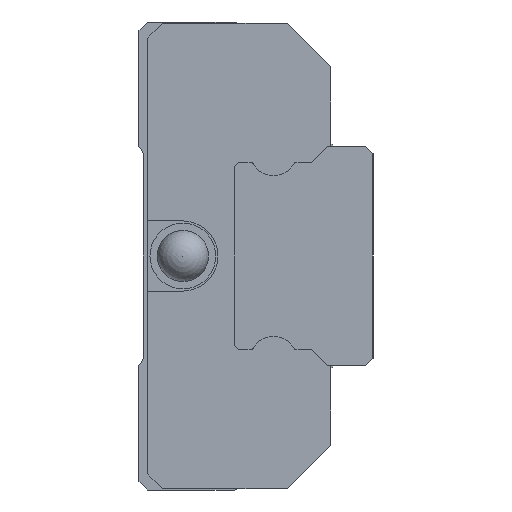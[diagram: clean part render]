
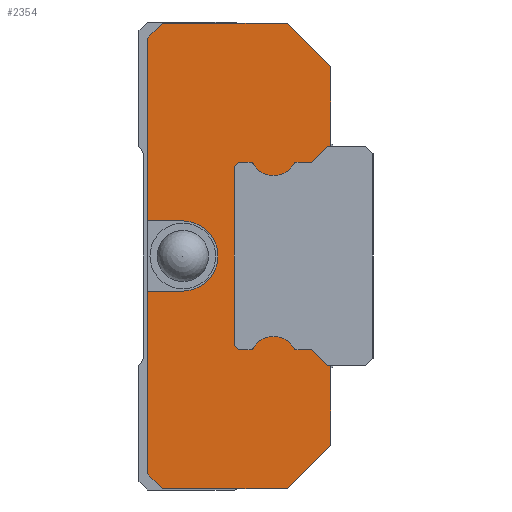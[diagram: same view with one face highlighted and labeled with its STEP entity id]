
A CAD part, left-side view. The second image highlights one B-rep face of the part: STEP entity #2354.
In plain terms, the highlighted planar face has unit normal (-1, 0, 0).
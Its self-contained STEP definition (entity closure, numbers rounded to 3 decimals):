
#90=CIRCLE('',#2548,2.4);
#91=CIRCLE('',#2549,0.15);
#92=CIRCLE('',#2550,1.6);
#93=CIRCLE('',#2551,0.15);
#94=CIRCLE('',#2552,0.15);
#95=CIRCLE('',#2553,1.6);
#96=CIRCLE('',#2554,0.15);
#270=ORIENTED_EDGE('',*,*,#866,.T.);
#271=ORIENTED_EDGE('',*,*,#867,.T.);
#272=ORIENTED_EDGE('',*,*,#868,.T.);
#273=ORIENTED_EDGE('',*,*,#864,.F.);
#274=ORIENTED_EDGE('',*,*,#869,.F.);
#275=ORIENTED_EDGE('',*,*,#870,.F.);
#276=ORIENTED_EDGE('',*,*,#871,.F.);
#277=ORIENTED_EDGE('',*,*,#872,.F.);
#278=ORIENTED_EDGE('',*,*,#873,.T.);
#279=ORIENTED_EDGE('',*,*,#874,.T.);
#280=ORIENTED_EDGE('',*,*,#875,.T.);
#281=ORIENTED_EDGE('',*,*,#876,.T.);
#282=ORIENTED_EDGE('',*,*,#877,.F.);
#283=ORIENTED_EDGE('',*,*,#878,.T.);
#284=ORIENTED_EDGE('',*,*,#879,.T.);
#285=ORIENTED_EDGE('',*,*,#880,.T.);
#286=ORIENTED_EDGE('',*,*,#881,.T.);
#287=ORIENTED_EDGE('',*,*,#882,.T.);
#288=ORIENTED_EDGE('',*,*,#883,.T.);
#289=ORIENTED_EDGE('',*,*,#884,.T.);
#290=ORIENTED_EDGE('',*,*,#885,.F.);
#291=ORIENTED_EDGE('',*,*,#886,.T.);
#292=ORIENTED_EDGE('',*,*,#887,.T.);
#293=ORIENTED_EDGE('',*,*,#888,.T.);
#294=ORIENTED_EDGE('',*,*,#889,.T.);
#295=ORIENTED_EDGE('',*,*,#890,.F.);
#296=ORIENTED_EDGE('',*,*,#891,.F.);
#297=ORIENTED_EDGE('',*,*,#892,.F.);
#298=ORIENTED_EDGE('',*,*,#893,.F.);
#299=ORIENTED_EDGE('',*,*,#860,.F.);
#860=EDGE_CURVE('',#1172,#1173,#1398,.T.);
#864=EDGE_CURVE('',#1176,#1177,#1402,.T.);
#866=EDGE_CURVE('',#1172,#1178,#1404,.T.);
#867=EDGE_CURVE('',#1178,#1179,#90,.T.);
#868=EDGE_CURVE('',#1179,#1177,#1405,.T.);
#869=EDGE_CURVE('',#1180,#1176,#1406,.T.);
#870=EDGE_CURVE('',#1181,#1180,#1407,.T.);
#871=EDGE_CURVE('',#1182,#1181,#1408,.T.);
#872=EDGE_CURVE('',#1183,#1182,#1409,.T.);
#873=EDGE_CURVE('',#1183,#1184,#1410,.T.);
#874=EDGE_CURVE('',#1184,#1185,#1411,.T.);
#875=EDGE_CURVE('',#1185,#1186,#1412,.T.);
#876=EDGE_CURVE('',#1186,#1187,#91,.T.);
#877=EDGE_CURVE('',#1188,#1187,#92,.T.);
#878=EDGE_CURVE('',#1188,#1189,#93,.T.);
#879=EDGE_CURVE('',#1189,#1190,#1413,.T.);
#880=EDGE_CURVE('',#1190,#1191,#1414,.T.);
#881=EDGE_CURVE('',#1191,#1192,#1415,.T.);
#882=EDGE_CURVE('',#1192,#1193,#1416,.T.);
#883=EDGE_CURVE('',#1193,#1194,#1417,.T.);
#884=EDGE_CURVE('',#1194,#1195,#94,.T.);
#885=EDGE_CURVE('',#1196,#1195,#95,.T.);
#886=EDGE_CURVE('',#1196,#1197,#96,.T.);
#887=EDGE_CURVE('',#1197,#1198,#1418,.T.);
#888=EDGE_CURVE('',#1198,#1199,#1419,.T.);
#889=EDGE_CURVE('',#1199,#1200,#1420,.T.);
#890=EDGE_CURVE('',#1201,#1200,#1421,.T.);
#891=EDGE_CURVE('',#1202,#1201,#1422,.T.);
#892=EDGE_CURVE('',#1203,#1202,#1423,.T.);
#893=EDGE_CURVE('',#1173,#1203,#1424,.T.);
#1172=VERTEX_POINT('',#3508);
#1173=VERTEX_POINT('',#3510);
#1176=VERTEX_POINT('',#3516);
#1177=VERTEX_POINT('',#3518);
#1178=VERTEX_POINT('',#3522);
#1179=VERTEX_POINT('',#3524);
#1180=VERTEX_POINT('',#3527);
#1181=VERTEX_POINT('',#3529);
#1182=VERTEX_POINT('',#3531);
#1183=VERTEX_POINT('',#3533);
#1184=VERTEX_POINT('',#3535);
#1185=VERTEX_POINT('',#3537);
#1186=VERTEX_POINT('',#3539);
#1187=VERTEX_POINT('',#3541);
#1188=VERTEX_POINT('',#3543);
#1189=VERTEX_POINT('',#3545);
#1190=VERTEX_POINT('',#3547);
#1191=VERTEX_POINT('',#3549);
#1192=VERTEX_POINT('',#3551);
#1193=VERTEX_POINT('',#3553);
#1194=VERTEX_POINT('',#3555);
#1195=VERTEX_POINT('',#3557);
#1196=VERTEX_POINT('',#3559);
#1197=VERTEX_POINT('',#3561);
#1198=VERTEX_POINT('',#3563);
#1199=VERTEX_POINT('',#3565);
#1200=VERTEX_POINT('',#3567);
#1201=VERTEX_POINT('',#3569);
#1202=VERTEX_POINT('',#3571);
#1203=VERTEX_POINT('',#3573);
#1398=LINE('',#3509,#1674);
#1402=LINE('',#3517,#1678);
#1404=LINE('',#3521,#1680);
#1405=LINE('',#3525,#1681);
#1406=LINE('',#3526,#1682);
#1407=LINE('',#3528,#1683);
#1408=LINE('',#3530,#1684);
#1409=LINE('',#3532,#1685);
#1410=LINE('',#3534,#1686);
#1411=LINE('',#3536,#1687);
#1412=LINE('',#3538,#1688);
#1413=LINE('',#3546,#1689);
#1414=LINE('',#3548,#1690);
#1415=LINE('',#3550,#1691);
#1416=LINE('',#3552,#1692);
#1417=LINE('',#3554,#1693);
#1418=LINE('',#3562,#1694);
#1419=LINE('',#3564,#1695);
#1420=LINE('',#3566,#1696);
#1421=LINE('',#3568,#1697);
#1422=LINE('',#3570,#1698);
#1423=LINE('',#3572,#1699);
#1424=LINE('',#3574,#1700);
#1674=VECTOR('',#2843,1000.);
#1678=VECTOR('',#2847,1000.);
#1680=VECTOR('',#2851,1000.);
#1681=VECTOR('',#2854,1000.);
#1682=VECTOR('',#2855,1000.);
#1683=VECTOR('',#2856,1000.);
#1684=VECTOR('',#2857,1000.);
#1685=VECTOR('',#2858,1000.);
#1686=VECTOR('',#2859,1000.);
#1687=VECTOR('',#2860,1000.);
#1688=VECTOR('',#2861,1000.);
#1689=VECTOR('',#2868,1000.);
#1690=VECTOR('',#2869,1000.);
#1691=VECTOR('',#2870,1000.);
#1692=VECTOR('',#2871,1000.);
#1693=VECTOR('',#2872,1000.);
#1694=VECTOR('',#2879,1000.);
#1695=VECTOR('',#2880,1000.);
#1696=VECTOR('',#2881,1000.);
#1697=VECTOR('',#2882,1000.);
#1698=VECTOR('',#2883,1000.);
#1699=VECTOR('',#2884,1000.);
#1700=VECTOR('',#2885,1000.);
#1939=EDGE_LOOP('',(#270,#271,#272,#273,#274,#275,#276,#277,#278,#279,#280,
#281,#282,#283,#284,#285,#286,#287,#288,#289,#290,#291,#292,#293,#294,#295,
#296,#297,#298,#299));
#2099=FACE_BOUND('',#1939,.T.);
#2241=PLANE('',#2547);
#2354=ADVANCED_FACE('',(#2099),#2241,.F.);
#2547=AXIS2_PLACEMENT_3D('',#3520,#2849,#2850);
#2548=AXIS2_PLACEMENT_3D('',#3523,#2852,#2853);
#2549=AXIS2_PLACEMENT_3D('',#3540,#2862,#2863);
#2550=AXIS2_PLACEMENT_3D('',#3542,#2864,#2865);
#2551=AXIS2_PLACEMENT_3D('',#3544,#2866,#2867);
#2552=AXIS2_PLACEMENT_3D('',#3556,#2873,#2874);
#2553=AXIS2_PLACEMENT_3D('',#3558,#2875,#2876);
#2554=AXIS2_PLACEMENT_3D('',#3560,#2877,#2878);
#2843=DIRECTION('',(0.,0.,1.));
#2847=DIRECTION('',(0.,0.,1.));
#2849=DIRECTION('',(1.,0.,0.));
#2850=DIRECTION('',(0.,0.,-1.));
#2851=DIRECTION('',(0.,-1.,0.));
#2852=DIRECTION('',(1.,0.,0.));
#2853=DIRECTION('',(0.,0.,-1.));
#2854=DIRECTION('',(0.,1.,0.));
#2855=DIRECTION('',(0.,0.707,0.707));
#2856=DIRECTION('',(0.,1.,0.));
#2857=DIRECTION('',(0.,0.707,-0.707));
#2858=DIRECTION('',(0.,0.,-1.));
#2859=DIRECTION('',(0.,1.,0.));
#2860=DIRECTION('',(0.,0.707,0.707));
#2861=DIRECTION('',(0.,1.,0.));
#2862=DIRECTION('',(1.,0.,0.));
#2863=DIRECTION('',(0.,0.,-1.));
#2864=DIRECTION('',(1.,0.,0.));
#2865=DIRECTION('',(0.,0.,-1.));
#2866=DIRECTION('',(1.,0.,0.));
#2867=DIRECTION('',(0.,0.,-1.));
#2868=DIRECTION('',(0.,1.,0.));
#2869=DIRECTION('',(0.,0.707,0.707));
#2870=DIRECTION('',(0.,0.,1.));
#2871=DIRECTION('',(0.,-0.707,0.707));
#2872=DIRECTION('',(0.,-1.,0.));
#2873=DIRECTION('',(1.,0.,0.));
#2874=DIRECTION('',(0.,0.,-1.));
#2875=DIRECTION('',(1.,0.,0.));
#2876=DIRECTION('',(0.,0.,-1.));
#2877=DIRECTION('',(1.,0.,0.));
#2878=DIRECTION('',(0.,0.,-1.));
#2879=DIRECTION('',(0.,-1.,0.));
#2880=DIRECTION('',(0.,-0.707,0.707));
#2881=DIRECTION('',(0.,-1.,0.));
#2882=DIRECTION('',(0.,0.,-1.));
#2883=DIRECTION('',(0.,-0.707,-0.707));
#2884=DIRECTION('',(0.,-1.,0.));
#2885=DIRECTION('',(0.,-0.707,0.707));
#3508=CARTESIAN_POINT('',(-16.,12.7,2.4));
#3509=CARTESIAN_POINT('',(-16.,12.7,-14.9));
#3510=CARTESIAN_POINT('',(-16.,12.7,14.9));
#3516=CARTESIAN_POINT('',(-16.,12.7,-14.9));
#3517=CARTESIAN_POINT('',(-16.,12.7,-14.9));
#3518=CARTESIAN_POINT('',(-16.,12.7,-2.4));
#3520=CARTESIAN_POINT('',(-16.,0.,0.));
#3521=CARTESIAN_POINT('',(-16.,13.3,2.4));
#3522=CARTESIAN_POINT('',(-16.,10.3,2.4));
#3523=CARTESIAN_POINT('',(-16.,10.3,0.));
#3524=CARTESIAN_POINT('',(-16.,10.3,-2.4));
#3525=CARTESIAN_POINT('',(-16.,10.3,-2.4));
#3526=CARTESIAN_POINT('',(-16.,11.7,-15.9));
#3527=CARTESIAN_POINT('',(-16.,11.7,-15.9));
#3528=CARTESIAN_POINT('',(-16.,3.16,-15.9));
#3529=CARTESIAN_POINT('',(-16.,3.16,-15.9));
#3530=CARTESIAN_POINT('',(-16.,0.2,-12.94));
#3531=CARTESIAN_POINT('',(-16.,0.2,-12.94));
#3532=CARTESIAN_POINT('',(-16.,0.2,12.94));
#3533=CARTESIAN_POINT('',(-16.,0.2,-7.5));
#3534=CARTESIAN_POINT('',(-16.,-2.2,-7.5));
#3535=CARTESIAN_POINT('',(-16.,0.4,-7.5));
#3536=CARTESIAN_POINT('',(-16.,0.4,-7.5));
#3537=CARTESIAN_POINT('',(-16.,1.5,-6.4));
#3538=CARTESIAN_POINT('',(-16.,1.5,-6.4));
#3539=CARTESIAN_POINT('',(-16.,2.57,-6.4));
#3540=CARTESIAN_POINT('',(-16.,2.57,-6.25));
#3541=CARTESIAN_POINT('',(-16.,2.701,-6.323));
#3542=CARTESIAN_POINT('',(-16.,4.1,-7.1));
#3543=CARTESIAN_POINT('',(-16.,5.499,-6.323));
#3544=CARTESIAN_POINT('',(-16.,5.63,-6.25));
#3545=CARTESIAN_POINT('',(-16.,5.63,-6.4));
#3546=CARTESIAN_POINT('',(-16.,5.63,-6.4));
#3547=CARTESIAN_POINT('',(-16.,6.5,-6.4));
#3548=CARTESIAN_POINT('',(-16.,6.5,-6.4));
#3549=CARTESIAN_POINT('',(-16.,6.8,-6.1));
#3550=CARTESIAN_POINT('',(-16.,6.8,-6.1));
#3551=CARTESIAN_POINT('',(-16.,6.8,6.1));
#3552=CARTESIAN_POINT('',(-16.,6.8,6.1));
#3553=CARTESIAN_POINT('',(-16.,6.5,6.4));
#3554=CARTESIAN_POINT('',(-16.,6.5,6.4));
#3555=CARTESIAN_POINT('',(-16.,5.63,6.4));
#3556=CARTESIAN_POINT('',(-16.,5.63,6.25));
#3557=CARTESIAN_POINT('',(-16.,5.499,6.323));
#3558=CARTESIAN_POINT('',(-16.,4.1,7.1));
#3559=CARTESIAN_POINT('',(-16.,2.701,6.323));
#3560=CARTESIAN_POINT('',(-16.,2.57,6.25));
#3561=CARTESIAN_POINT('',(-16.,2.57,6.4));
#3562=CARTESIAN_POINT('',(-16.,2.57,6.4));
#3563=CARTESIAN_POINT('',(-16.,1.5,6.4));
#3564=CARTESIAN_POINT('',(-16.,1.5,6.4));
#3565=CARTESIAN_POINT('',(-16.,0.4,7.5));
#3566=CARTESIAN_POINT('',(-16.,0.4,7.5));
#3567=CARTESIAN_POINT('',(-16.,0.2,7.5));
#3568=CARTESIAN_POINT('',(-16.,0.2,12.94));
#3569=CARTESIAN_POINT('',(-16.,0.2,12.94));
#3570=CARTESIAN_POINT('',(-16.,3.16,15.9));
#3571=CARTESIAN_POINT('',(-16.,3.16,15.9));
#3572=CARTESIAN_POINT('',(-16.,11.7,15.9));
#3573=CARTESIAN_POINT('',(-16.,11.7,15.9));
#3574=CARTESIAN_POINT('',(-16.,12.7,14.9));
